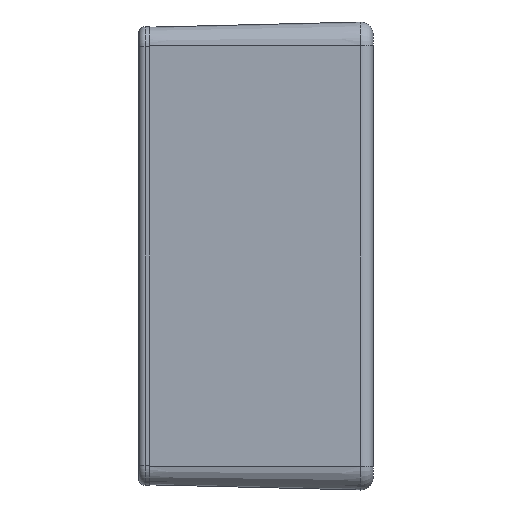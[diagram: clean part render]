
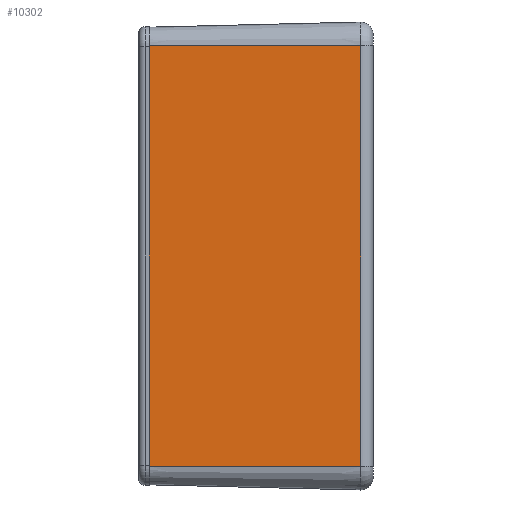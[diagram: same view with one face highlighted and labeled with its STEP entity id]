
A CAD part, left-side view. The second image highlights one B-rep face of the part: STEP entity #10302.
In plain terms, the highlighted planar face has unit normal (-1, 0.024, 0).
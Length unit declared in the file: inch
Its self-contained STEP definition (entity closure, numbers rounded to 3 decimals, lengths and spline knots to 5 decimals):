
#1287 = DIRECTION ( 'NONE',  ( -0.024, -1., 0. ) ) ;
#1289 = DIRECTION ( 'NONE',  ( -1., 0.024, 0. ) ) ;
#1291 = PLANE ( 'NONE',  #9582 ) ;
#1292 = CARTESIAN_POINT ( 'NONE',  ( -3.8125, 0., -2.122 ) ) ;
#4532 = EDGE_CURVE ( 'NONE', #4768, #4623, #6758, .T. ) ;
#4534 = EDGE_CURVE ( 'NONE', #4630, #4768, #6767, .T. ) ;
#4538 = EDGE_CURVE ( 'NONE', #5123, #4623, #6774, .T. ) ;
#4543 = EDGE_CURVE ( 'NONE', #4630, #5123, #6772, .T. ) ;
#4623 = VERTEX_POINT ( 'NONE', #6236 ) ;
#4630 = VERTEX_POINT ( 'NONE', #6226 ) ;
#4768 = VERTEX_POINT ( 'NONE', #6062 ) ;
#5123 = VERTEX_POINT ( 'NONE', #9940 ) ;
#5549 = FACE_OUTER_BOUND ( 'NONE', #10514, .T. ) ;
#6062 = CARTESIAN_POINT ( 'NONE',  ( -3.8125, 0., -2.122 ) ) ;
#6115 = DIRECTION ( 'NONE',  ( 0., 0., 1. ) ) ;
#6119 = CARTESIAN_POINT ( 'NONE',  ( -3.86468, -2.135, 2.122 ) ) ;
#6191 = DIRECTION ( 'NONE',  ( 0.024, 1., 0. ) ) ;
#6192 = CARTESIAN_POINT ( 'NONE',  ( -3.8125, 0., 2.122 ) ) ;
#6226 = CARTESIAN_POINT ( 'NONE',  ( -3.86468, -2.135, -2.122 ) ) ;
#6236 = CARTESIAN_POINT ( 'NONE',  ( -3.8125, 0., 2.122 ) ) ;
#6248 = DIRECTION ( 'NONE',  ( 0.024, 1., 0. ) ) ;
#6250 = CARTESIAN_POINT ( 'NONE',  ( -3.8125, 0., -2.122 ) ) ;
#6273 = DIRECTION ( 'NONE',  ( 0., 0., 1. ) ) ;
#6277 = CARTESIAN_POINT ( 'NONE',  ( -3.8125, 0., -2.122 ) ) ;
#6758 = LINE ( 'NONE', #6277, #6768 ) ;
#6767 = LINE ( 'NONE', #6250, #6770 ) ;
#6768 = VECTOR ( 'NONE', #6273, 39.37008 ) ;
#6770 = VECTOR ( 'NONE', #6248, 39.37008 ) ;
#6772 = LINE ( 'NONE', #6119, #6779 ) ;
#6774 = LINE ( 'NONE', #6192, #6776 ) ;
#6776 = VECTOR ( 'NONE', #6191, 39.37008 ) ;
#6779 = VECTOR ( 'NONE', #6115, 39.37008 ) ;
#7404 = ORIENTED_EDGE ( 'NONE', *, *, #4538, .T. ) ;
#7405 = ORIENTED_EDGE ( 'NONE', *, *, #4543, .T. ) ;
#7406 = ORIENTED_EDGE ( 'NONE', *, *, #4534, .F. ) ;
#7407 = ORIENTED_EDGE ( 'NONE', *, *, #4532, .F. ) ;
#9582 = AXIS2_PLACEMENT_3D ( 'NONE', #1292, #1289, #1287 ) ;
#9940 = CARTESIAN_POINT ( 'NONE',  ( -3.86468, -2.135, 2.122 ) ) ;
#10302 = ADVANCED_FACE ( 'NONE', ( #5549 ), #1291, .T. ) ;
#10514 = EDGE_LOOP ( 'NONE', ( #7407, #7406, #7405, #7404 ) ) ;
